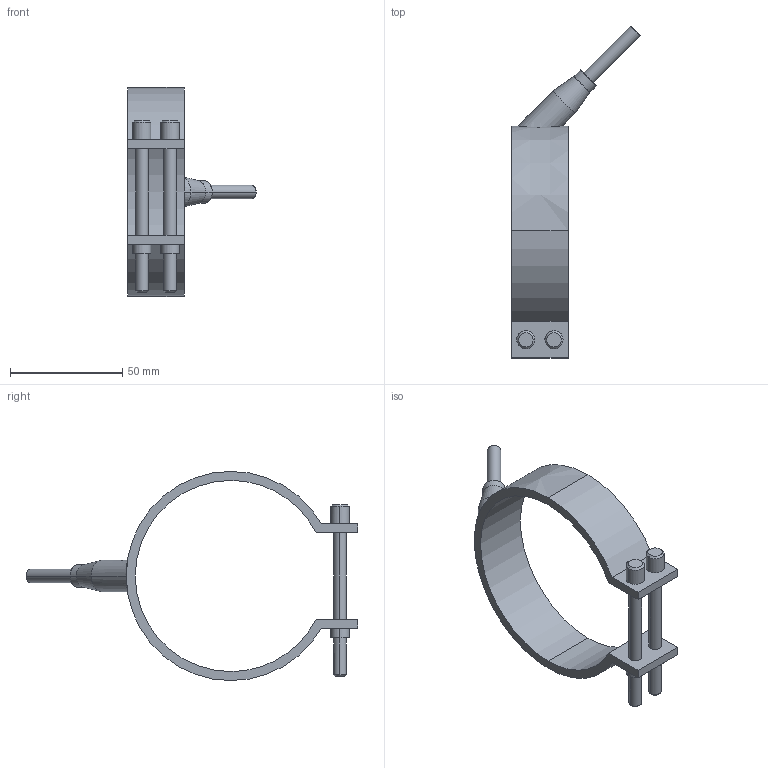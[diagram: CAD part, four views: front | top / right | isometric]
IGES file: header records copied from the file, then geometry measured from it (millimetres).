
Start section: START RECORD GO HERE.
Global section: file name: 29085025.igs; native system: DASSAULT SYSTEMES CATIA V5 R20 - www.3ds.com; preprocessor: CATIA Version 5 Release 20 ; author: Utente; organization: NB04-ASUS; date: 20210329.200659; units: millimetre
Bounding box: 57.05 x 147.55 x 93 mm (x, y, z)
Surface area: 20007.9 mm2 (no closed solid volume)
Topology: 0 solids, 0 shells, 54 faces, 246 edges, 246 vertices
Faces by surface type: revolution 38, plane 16
